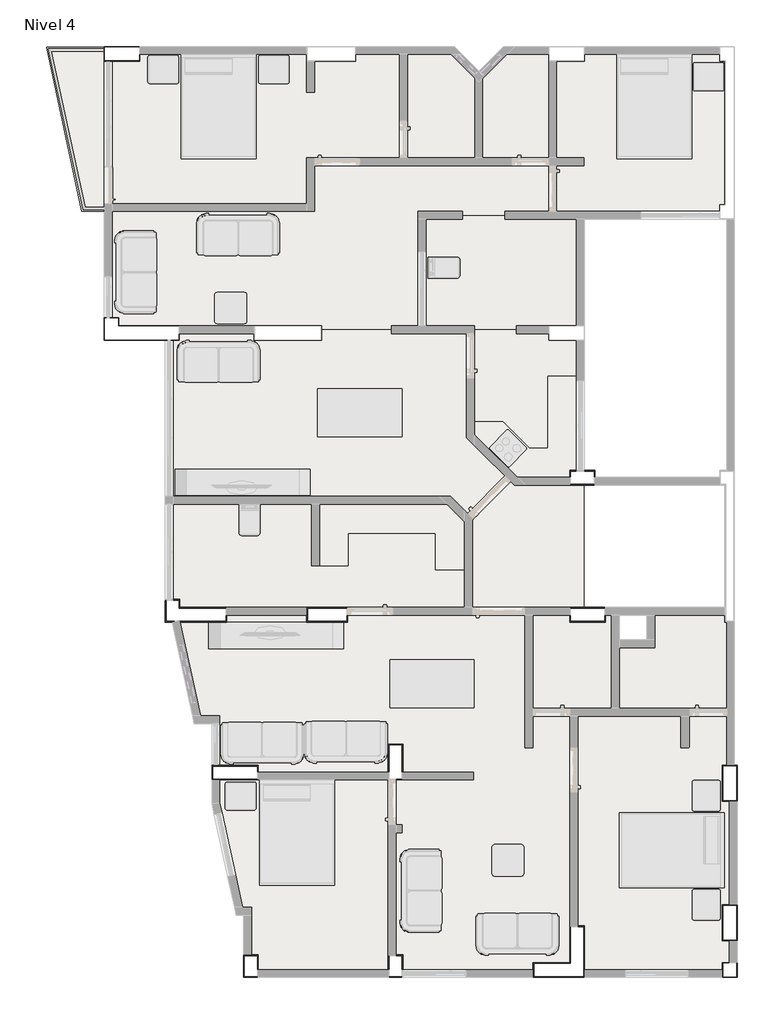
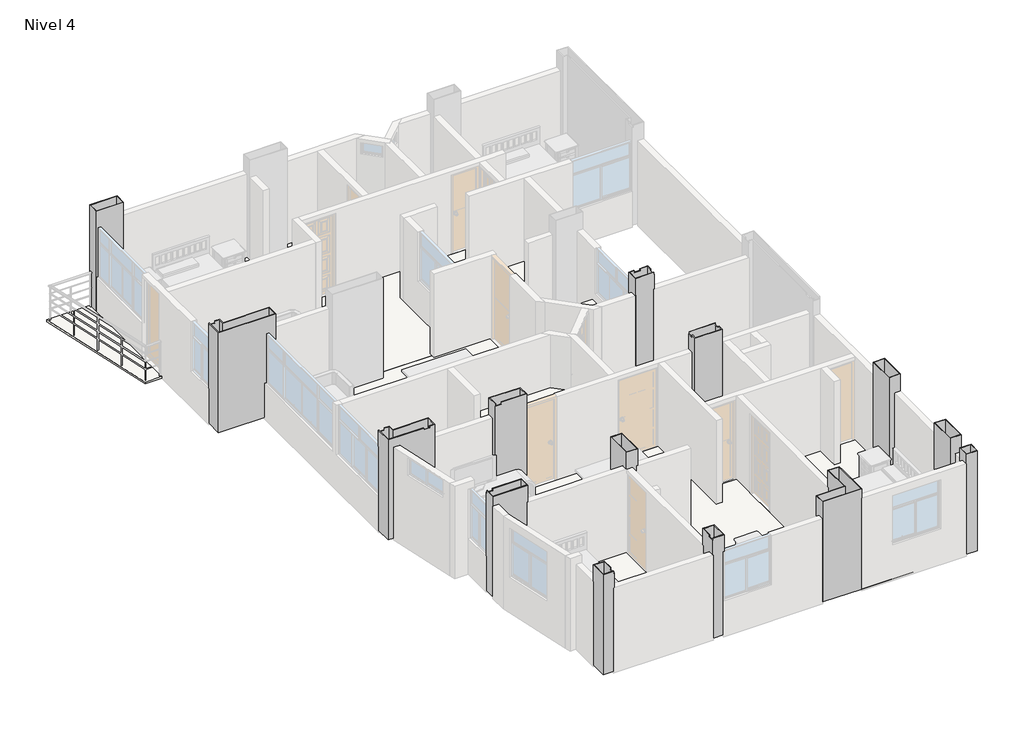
# One storey, part 3 of 4: 17 slabs, 14 columns.
"""IFC4 building model written with IfcOpenShell, lengths in millimetres."""

import ifcopenshell
import ifcopenshell.guid

model = None  # the IFC model being written
_history = None  # IfcOwnerHistory: only IFC2X3 demands one
_inside = {}  # id of a spatial element -> (the spatial element, [elements in it])
_under = {}  # id of a project, library or spatial element -> (it, [spatial elements below it])
_declared = {}  # id of a project -> (the project, [libraries it declares])
_typed = {}  # id of a type object -> (the type object, [elements of that type])
_made_of = {}  # id of a material, layer set ... -> (it, [elements and type objects made of it])


def new_model(schema):
    """Start an empty IFC model of exactly this schema.

    Asked for "IFC4X3", IfcOpenShell would pick the latest addendum, in which some entities
    have other attributes; the version numbers below select the first issue.
    IFC2X3 requires an IfcOwnerHistory on every rooted entity: one is made here for all.
    """
    global model, _history
    if schema == "IFC4X3":
        model = ifcopenshell.file(schema_version=(4, 3, 0, 0))
    else:
        model = ifcopenshell.file(schema=schema)
    _inside.clear()
    _under.clear()
    _declared.clear()
    _typed.clear()
    _made_of.clear()
    _history = None
    if model.schema == "IFC2X3":
        org = make("IfcOrganization", Name="unknown")
        user = make(
            "IfcPersonAndOrganization",
            ThePerson=make("IfcPerson", FamilyName="unknown"),
            TheOrganization=org,
        )
        app = make(
            "IfcApplication",
            ApplicationDeveloper=org,
            Version="unknown",
            ApplicationFullName="unknown",
            ApplicationIdentifier="unknown",
        )
        _history = make(
            "IfcOwnerHistory",
            OwningUser=user,
            OwningApplication=app,
            ChangeAction="ADDED",
            CreationDate=0,
        )
    return model


def make(cls, **values):
    """One entity of the class cls with the attributes given. An attribute that is None is left unset."""
    return model.create_entity(
        cls, **{name: value for name, value in values.items() if value is not None}
    )


def rooted(cls, **values):
    """An entity with a GlobalId (a new one), such as an element, a storey or a relation."""
    return make(cls, GlobalId=ifcopenshell.guid.new(), OwnerHistory=_history, **values)


def si_unit(unit_type, name, prefix=None):
    """IfcSIUnit, for example si_unit("LENGTHUNIT", "METRE", prefix="MILLI")."""
    return make("IfcSIUnit", UnitType=unit_type, Prefix=prefix, Name=name)


def assignment(units):
    """IfcUnitAssignment: the units of a project."""
    return None if units is None else make("IfcUnitAssignment", Units=units)


def point(xyz):
    """IfcCartesianPoint."""
    return None if xyz is None else make("IfcCartesianPoint", Coordinates=xyz)


def direction(xyz):
    """IfcDirection."""
    return None if xyz is None else make("IfcDirection", DirectionRatios=xyz)


def frame(location, z_axis=None, x_axis=None):
    """IfcAxis2Placement3D, a coordinate frame: its origin and axes. An axis left out is left unset."""
    return make(
        "IfcAxis2Placement3D",
        Location=point(location),
        Axis=direction(z_axis),
        RefDirection=direction(x_axis),
    )


def origin():
    """The frame at (0, 0, 0) with its axes left unset."""
    return frame((0.0, 0.0, 0.0))


def place(relative_to, where):
    """IfcLocalPlacement: puts the frame where relative to a parent placement (None: the world)."""
    return make(
        "IfcLocalPlacement", PlacementRelTo=relative_to, RelativePlacement=where
    )


def context(
    kind, dimensions, precision=None, world=None, true_north=None, identifier=None
):
    """IfcGeometricRepresentationContext, for example the 3D "Model" context."""
    return make(
        "IfcGeometricRepresentationContext",
        ContextIdentifier=identifier,
        ContextType=kind,
        CoordinateSpaceDimension=dimensions,
        Precision=precision,
        WorldCoordinateSystem=world,
        TrueNorth=true_north,
    )


def project(units=None, contexts=None):
    """IfcProject with its units and contexts."""
    return rooted(
        "IfcProject",
        Name="project",
        RepresentationContexts=contexts,
        UnitsInContext=assignment(units),
    )


def spatial(cls, under=None, at=None, **own):
    """A site, building, storey or space (cls), placed at a placement, below another one or the project."""
    s = rooted(cls, ObjectPlacement=at, **own)
    if under is not None:
        _under.setdefault(under.id(), (under, []))[1].append(s)
    return s


def polyline(points):
    """IfcPolyline through the points."""
    return make("IfcPolyline", Points=[point(p) for p in points])


def outline(outer, holes=None, kind="AREA"):
    """IfcArbitraryClosedProfileDef: a profile drawn as a closed curve; with holes, ...WithVoids."""
    if holes is None:
        return make("IfcArbitraryClosedProfileDef", ProfileType=kind, OuterCurve=outer)
    return make(
        "IfcArbitraryProfileDefWithVoids",
        ProfileType=kind,
        OuterCurve=outer,
        InnerCurves=holes,
    )


def extrude(swept, where, along, depth):
    """IfcExtrudedAreaSolid: the profile swept, set in the frame where, extruded along a direction by depth."""
    return make(
        "IfcExtrudedAreaSolid",
        SweptArea=swept,
        Position=where,
        ExtrudedDirection=direction(along),
        Depth=depth,
    )


def faces_of(points, faces, orient=None, outer=None):
    """IfcFace entities. A face is a list of loops; a loop is a list of indices into points, from 0.

    orient and outer hold one flag for each loop. By default every Orientation is true, the
    first loop of a face is its IfcFaceOuterBound and the others are IfcFaceBound.
    """
    made = []
    for i, loops in enumerate(faces):
        bounds = []
        for j, loop in enumerate(loops):
            is_outer = j == 0 if outer is None else outer[i][j]
            bounds.append(
                make(
                    "IfcFaceOuterBound" if is_outer else "IfcFaceBound",
                    Bound=make("IfcPolyLoop", Polygon=[points[k] for k in loop]),
                    Orientation=True if orient is None else orient[i][j],
                )
            )
        made.append(make("IfcFace", Bounds=bounds))
    return made


def faceted_brep(points, faces, orient=None, outer=None, voids=None):
    """IfcFacetedBrep: a solid bounded by flat faces; with voids (closed shells), ...WithVoids."""
    shared = [point(p) for p in points]
    hull = make("IfcClosedShell", CfsFaces=faces_of(shared, faces, orient, outer))
    if voids is None:
        return make("IfcFacetedBrep", Outer=hull)
    return make(
        "IfcFacetedBrepWithVoids",
        Outer=hull,
        Voids=[
            make(cls, CfsFaces=faces_of(shared, fs, o, b)) for cls, fs, o, b in voids
        ],
    )


def shape(context_of_items, identifier, shape_type, items):
    """IfcShapeRepresentation: the items that make up one representation, for example the "Body"."""
    return make(
        "IfcShapeRepresentation",
        ContextOfItems=context_of_items,
        RepresentationIdentifier=identifier,
        RepresentationType=shape_type,
        Items=items,
    )


def made_of(thing, what):
    """Note that an element or type object is made of a material, layer set ...; save() writes the relation."""
    if what is not None:
        _made_of.setdefault(what.id(), (what, []))[1].append(thing)
    return thing


def element(
    cls,
    number,
    at=None,
    inside=None,
    cuts=None,
    type_object=None,
    material=None,
    context=None,
    identifier="Body",
    shape_type=None,
    held_by="IfcProductDefinitionShape",
    body=None,
    shapes=None,
    **own,
):
    """One element of the class cls, such as IfcWall. Its Tag is "e" and its number.

    at: its placement. inside: the storey or other place that contains it. cuts: it is an
    opening in that element (IfcRelVoidsElement). A single representation is given by context,
    identifier, shape_type and body (its items); several are given by shapes. held_by: the class
    of the entity that holds the representations. save() writes the other relations.
    """
    e = rooted(cls, Tag="e%d" % number, ObjectPlacement=at, **own)
    if body is not None:
        shapes = [shape(context, identifier, shape_type, body)]
    if shapes is not None:
        e.Representation = make(held_by, Representations=shapes)
    if inside is not None:
        _inside.setdefault(inside.id(), (inside, []))[1].append(e)
    if cuts is not None:
        rooted(
            "IfcRelVoidsElement", RelatingBuildingElement=cuts, RelatedOpeningElement=e
        )
    if type_object is not None:
        _typed.setdefault(type_object.id(), (type_object, []))[1].append(e)
    return made_of(e, material)


def aggregate(whole, parts):
    """IfcRelAggregates: a whole, such as a stair, and the parts it consists of."""
    return rooted("IfcRelAggregates", RelatingObject=whole, RelatedObjects=parts)


def save(model, path):
    """Write the relations noted so far, then the file.

    IfcRelAggregates (storeys below a building ...), IfcRelContainedInSpatialStructure (elements
    in a storey), IfcRelDefinesByType, IfcRelAssociatesMaterial and IfcRelDeclares: one each for
    every whole, place, type object, material and project.
    """
    for whole, parts in _under.values():
        aggregate(whole, parts)
    for where, things in _inside.values():
        rooted(
            "IfcRelContainedInSpatialStructure",
            RelatedElements=things,
            RelatingStructure=where,
        )
    for kind, things in _typed.values():
        rooted("IfcRelDefinesByType", RelatedObjects=things, RelatingType=kind)
    for what, things in _made_of.values():
        rooted("IfcRelAssociatesMaterial", RelatedObjects=things, RelatingMaterial=what)
    for by, libraries in _declared.values():
        rooted("IfcRelDeclares", RelatingContext=by, RelatedDefinitions=libraries)
    model.write(path)


model = new_model("IFC4")

# Units and contexts
model_context = context("Model", 3, world=origin())
ifc_project = project(units=[si_unit("LENGTHUNIT", "METRE", prefix="MILLI")], contexts=[model_context])

# Site, building, storey
site = spatial("IfcSite", under=ifc_project)
building = spatial("IfcBuilding", under=site)
storey = spatial("IfcBuildingStorey", under=building, Name="Nivel 4", Elevation=8100.0)

# Columns
placement = place(None, origin())
element("IfcColumn", 1, ObjectType="Columna L Arquitectonica : ACO_L 40x114x25 cm", at=placement, inside=storey, context=model_context, shape_type="Brep", body=[
    faceted_brep([(-350.0, 7000.0, 8100.0), (-1240.0, 7000.0, 8100.0), (-1240.0, 7150.0, 8100.0), (-1355.0, 7150.0, 8100.0), (-1355.0, 7165.0, 8100.0), (-1225.0, 7165.0, 8100.0), (-1225.0, 7015.0, 8100.0), (-350.0, 7015.0, 8100.0), (-1240.0, 7150.0, 10750.0), (-1355.0, 7150.0, 10750.0), (-1355.0, 7150.0, 10700.0), (-1490.0, 7150.0, 10700.0), (-1490.0, 7150.0, 10300.0), (-1355.0, 7150.0, 10300.0), (-1490.0, 6750.0, 8100.0), (-1490.0, 7150.0, 8100.0), (-1490.0, 7150.0, 10750.0), (-1490.0, 6750.0, 10750.0), (-615.0, 6750.0, 10750.0), (-615.0, 6750.0, 10700.0), (-465.0, 6750.0, 10700.0), (-465.0, 6750.0, 10750.0), (-350.0, 6750.0, 10750.0), (-350.0, 6750.0, 8100.0), (-1220.1386409, 6750.0, 8100.0), (-1220.1386409, 6750.0, 10500.0), (-1331.7746495, 6750.0, 10500.0), (-1331.7746495, 6750.0, 8100.0), (-350.0, 7000.0, 10750.0), (-350.0, 7000.0, 10300.0), (-350.0, 6865.0, 10300.0), (-350.0, 6865.0, 8100.0), (-1240.0, 7000.0, 10750.0), (-1225.0, 7165.0, 10750.0), (-1225.0, 7015.0, 10750.0), (-335.0, 7015.0, 10750.0), (-335.0, 7015.0, 10300.0), (-350.0, 7015.0, 10300.0), (-335.0, 6735.0, 10750.0), (-335.0, 6735.0, 8100.0), (-335.0, 6865.0, 8100.0), (-335.0, 6865.0, 10300.0), (-465.0, 6735.0, 10750.0), (-465.0, 6735.0, 10700.0), (-615.0, 6735.0, 10700.0), (-615.0, 6735.0, 10750.0), (-1505.0, 6735.0, 10750.0), (-1505.0, 6735.0, 8100.0), (-1370.3630896, 6735.0, 8100.0), (-1370.3630896, 6735.0, 10500.0), (-1216.8940234, 6735.0, 10500.0), (-1216.8940234, 6735.0, 8100.0), (-1505.0, 7150.0, 10750.0), (-1505.0, 7150.0, 10700.0), (-1505.0, 7165.0, 10700.0), (-1505.0, 7165.0, 10300.0), (-1505.0, 7150.0, 10300.0), (-1505.0, 7150.0, 8100.0), (-1355.0, 7165.0, 9000.0), (-1355.0, 7165.0, 10300.0), (-1355.0, 7165.0, 10700.0), (-1355.0, 7165.0, 10750.0), (-1371.7378651, 6741.3556434, 8100.0), (-1371.7378651, 6741.3556434, 10500.0)], [[[0, 1, 2, 3, 4, 5, 6, 7]], [[2, 8, 9, 10, 11, 12, 13, 3]], [[14, 15, 12, 11, 16, 17]], [[14, 17, 18, 19, 20, 21, 22, 23, 24, 25, 26, 27]], [[23, 22, 28, 29, 30, 31]], [[1, 0, 29, 28, 32]], [[2, 1, 32, 8]], [[6, 5, 33, 34]], [[6, 34, 35, 36, 37, 7]], [[35, 38, 39, 40, 41, 36]], [[39, 38, 42, 43, 44, 45, 46, 47, 48, 49, 50, 51]], [[47, 46, 52, 53, 54, 55, 56, 57]], [[33, 5, 4, 58, 59, 55, 54, 60, 61]], [[17, 16, 52, 46, 45, 18]], [[4, 3, 13, 59, 58]], [[12, 56, 55, 59, 13]], [[56, 12, 15, 57]], [[30, 41, 40, 31]], [[37, 29, 0, 7]], [[29, 37, 36, 41, 30]], [[23, 31, 40, 39, 51, 24]], [[50, 25, 24, 51]], [[62, 63, 49, 48]], [[63, 62, 27, 26]], [[25, 50, 49, 63, 26]], [[15, 14, 27, 62, 48, 47, 57]], [[20, 43, 42, 21]], [[44, 19, 18, 45]], [[43, 20, 19, 44]], [[60, 10, 9, 61]], [[53, 11, 10, 60, 54]], [[11, 53, 52, 16]], [[28, 22, 21, 42, 38, 35, 34, 33, 61, 9, 8, 32]]]),
])
element("IfcColumn", 2, ObjectType="Columna L Arquitectonica : ACO_L 40x140x25 cm", at=placement, inside=storey, context=model_context, shape_type="Brep", body=[
    faceted_brep([(-2385.0, 12515.0, 8100.0), (-2385.0, 12365.0, 8100.0), (-1235.0, 12365.0, 8100.0), (-1235.0, 12085.0, 8100.0), (-2665.0, 12085.0, 8100.0), (-2665.0, 12515.0, 8100.0), (-2400.0, 12500.0, 8100.0), (-2650.0, 12500.0, 8100.0), (-2650.0, 12100.0, 8100.0), (-1250.0, 12100.0, 8100.0), (-1250.0, 12350.0, 8100.0), (-2400.0, 12350.0, 8100.0), (-2400.0, 12500.0, 10750.0), (-2515.0, 12500.0, 10750.0), (-2515.0, 12500.0, 10700.0), (-2650.0, 12500.0, 10700.0), (-2650.0, 12500.0, 10750.0), (-2650.0, 12100.0, 10750.0), (-1250.0, 12100.0, 10750.0), (-1250.0, 12350.0, 10750.0), (-2400.0, 12350.0, 10750.0), (-2385.0, 12515.0, 10750.0), (-2385.0, 12365.0, 10750.0), (-1235.0, 12365.0, 10750.0), (-1235.0, 12365.0, 10700.0), (-1235.0, 12365.0, 10300.0), (-1235.0, 12085.0, 10750.0), (-2665.0, 12085.0, 10750.0), (-2665.0, 12500.0, 10750.0), (-2665.0, 12500.0, 10700.0), (-2665.0, 12515.0, 10700.0), (-2665.0, 12515.0, 9000.0), (-2515.0, 12515.0, 10700.0), (-2515.0, 12515.0, 10750.0)], [[[0, 1, 2, 3, 4, 5], [6, 7, 8, 9, 10, 11]], [[7, 6, 12, 13, 14, 15]], [[8, 7, 15, 16, 17]], [[9, 8, 17, 18]], [[10, 9, 18, 19]], [[11, 10, 19, 20]], [[6, 11, 20, 12]], [[1, 0, 21, 22]], [[2, 1, 22, 23, 24, 25]], [[3, 2, 25, 24, 23, 26]], [[4, 3, 26, 27]], [[5, 4, 27, 28, 29, 30, 31]], [[0, 5, 31, 30, 32, 33, 21]], [[17, 16, 28, 27, 26, 23, 22, 21, 33, 13, 12, 20, 19, 18]], [[32, 14, 13, 33]], [[29, 15, 14, 32, 30]], [[15, 29, 28, 16]]]),
])
element("IfcColumn", 3, ObjectType="Columna L Arquitectonica : ACO_L 95x95x25 cm", at=placement, inside=storey, context=model_context, shape_type="Brep", body=[
    faceted_brep([(5500.0, 250.0, 8100.0), (5500.0, 0.0, 8100.0), (6450.0, 0.0, 8100.0), (6450.0, 950.0, 8100.0), (6335.0, 950.0, 8100.0), (6335.0, 965.0, 8100.0), (6465.0, 965.0, 8100.0), (6465.0, -15.0, 8100.0), (5485.0, -15.0, 8100.0), (5485.0, 265.0, 8100.0), (6185.0, 265.0, 8100.0), (6185.0, 950.0, 8100.0), (6200.0, 950.0, 8100.0), (6200.0, 250.0, 8100.0), (5500.0, 250.0, 10750.0), (5500.0, 0.0, 10750.0), (6450.0, 0.0, 10750.0), (6450.0, 950.0, 10750.0), (6200.0, 950.0, 10750.0), (6200.0, 950.0, 10300.0), (6335.0, 950.0, 10300.0), (6200.0, 250.0, 10750.0), (5485.0, 265.0, 10750.0), (6185.0, 265.0, 10750.0), (6185.0, 965.0, 10750.0), (6185.0, 965.0, 10300.0), (6185.0, 950.0, 10300.0), (6465.0, 965.0, 10750.0), (6465.0, 965.0, 10700.0), (6335.0, 965.0, 10300.0), (6465.0, 815.0, 10750.0), (6465.0, -15.0, 10750.0), (6465.0, -15.0, 10500.0), (5485.0, -15.0, 10750.0), (5485.0, -15.0, 10300.0)], [[[0, 1, 2, 3, 4, 5, 6, 7, 8, 9, 10, 11, 12, 13]], [[1, 0, 14, 15]], [[2, 1, 15, 16]], [[3, 2, 16, 17]], [[3, 17, 18, 19, 20, 4]], [[13, 12, 19, 18, 21]], [[0, 13, 21, 14]], [[10, 9, 22, 23]], [[10, 23, 24, 25, 26, 11]], [[24, 27, 28, 6, 5, 29, 25]], [[7, 6, 28, 27, 30, 31, 32]], [[8, 7, 32, 31, 33, 34]], [[9, 8, 34, 33, 22]], [[23, 22, 33, 31, 30, 27, 24], [15, 14, 21, 18, 17, 16]], [[20, 29, 5, 4]], [[19, 26, 25, 29, 20]], [[26, 19, 12, 11]]]),
])
element("IfcColumn", 4, ObjectType="Columna Rectangular Arquitectonica : ACO_Rectangular 25x25 cm", at=placement, inside=storey, context=model_context, shape_type="Brep", body=[
    faceted_brep([(9085.0, -15.0, 8100.0), (9085.0, 265.0, 8100.0), (9365.0, 265.0, 8100.0), (9365.0, -15.0, 8100.0), (9100.0, 0.0, 8100.0), (9350.0, 0.0, 8100.0), (9350.0, 250.0, 8100.0), (9100.0, 250.0, 8100.0), (9100.0, 0.0, 10750.0), (9350.0, 0.0, 10750.0), (9350.0, 250.0, 10750.0), (9100.0, 250.0, 10750.0), (9085.0, -15.0, 10750.0), (9085.0, 265.0, 10750.0), (9085.0, -15.0, 10500.0), (9365.0, 265.0, 10750.0), (9365.0, 265.0, 10700.0), (9365.0, 265.0, 10300.0), (9365.0, -15.0, 10750.0)], [[[0, 1, 2, 3], [4, 5, 6, 7]], [[8, 9, 5, 4]], [[9, 10, 6, 5]], [[10, 11, 7, 6]], [[11, 8, 4, 7]], [[12, 13, 1, 0, 14]], [[13, 15, 16, 17, 2, 1]], [[15, 18, 3, 2, 17, 16]], [[18, 12, 14, 0, 3]], [[12, 18, 15, 13], [8, 11, 10, 9]]]),
])
element("IfcColumn", 5, ObjectType="Columna Rectangular Arquitectonica : ACO_Rectangular 25x40 cm", at=placement, inside=storey, context=model_context, shape_type="Brep", body=[
    faceted_brep([(2735.0, 400.0, 8100.0), (2750.0, 400.0, 8100.0), (2750.0, 135.0, 8100.0), (2735.0, 135.0, 8100.0), (3000.0, 0.0, 8100.0), (2750.0, 0.0, 8100.0), (2750.0, 0.0, 10300.0), (2750.0, 0.0, 10700.0), (2750.0, 0.0, 10750.0), (3000.0, 0.0, 10750.0), (3000.0, 0.0, 10300.0), (3000.0, 400.0, 10750.0), (3000.0, 400.0, 8100.0), (3000.0, 135.0, 8100.0), (3000.0, 135.0, 10300.0), (2750.0, 400.0, 10750.0), (2750.0, 400.0, 10300.0), (2885.0, 400.0, 10300.0), (2885.0, 400.0, 8100.0), (2750.0, 135.0, 10750.0), (2750.0, 135.0, 10700.0), (2750.0, 135.0, 10300.0), (2735.0, 415.0, 10750.0), (2735.0, 415.0, 10300.0), (2735.0, 400.0, 10300.0), (2735.0, 135.0, 10300.0), (2735.0, -15.0, 10300.0), (2735.0, -15.0, 10700.0), (2735.0, 135.0, 10700.0), (2735.0, 135.0, 10750.0), (3015.0, 415.0, 10750.0), (3015.0, 415.0, 8100.0), (2885.0, 415.0, 8100.0), (2885.0, 415.0, 10300.0), (3015.0, -15.0, 10750.0), (3015.0, -15.0, 10300.0), (3015.0, 135.0, 10300.0), (3015.0, 135.0, 9000.0), (3015.0, 135.0, 8100.0), (2750.0, -15.0, 10300.0), (2750.0, -15.0, 8100.0), (3000.0, -15.0, 8100.0), (3000.0, -15.0, 10300.0), (2750.0, -15.0, 10750.0), (2750.0, -15.0, 10700.0)], [[[0, 1, 2, 3]], [[4, 5, 6, 7, 8, 9, 10]], [[9, 11, 12, 13, 14, 10]], [[12, 11, 15, 16, 17, 18]], [[16, 15, 19, 20, 7, 6, 21, 2, 1]], [[22, 23, 24, 0, 3, 25, 26, 27, 28, 29]], [[22, 30, 31, 32, 33, 23]], [[31, 30, 34, 35, 36, 37, 38]], [[26, 39, 40, 41, 42, 35, 34, 43, 44, 27]], [[9, 8, 43, 34, 30, 22, 29, 19, 15, 11]], [[17, 33, 32, 18]], [[16, 24, 23, 33, 17]], [[24, 16, 1, 0]], [[21, 25, 3, 2]], [[6, 39, 26, 25, 21]], [[39, 6, 5, 40]], [[12, 18, 32, 31, 38, 13]], [[14, 13, 38, 37, 36]], [[10, 42, 41, 4]], [[42, 10, 14, 36, 35]], [[5, 4, 41, 40]], [[28, 20, 19, 29]], [[44, 7, 20, 28, 27]], [[7, 44, 43, 8]]]),
])
element("IfcColumn", 6, ObjectType="Columna Rectangular Arquitectonica : ACO_Rectangular 25x40 cm", at=placement, inside=storey, context=model_context, shape_type="Brep", body=[
    faceted_brep([(0.0, 0.0, 8100.0), (250.0, 0.0, 8100.0), (250.0, -15.0, 8100.0), (-15.0, -15.0, 8100.0), (-15.0, 415.0, 8100.0), (265.0, 415.0, 8100.0), (265.0, 135.0, 8100.0), (250.0, 135.0, 8100.0), (250.0, 400.0, 8100.0), (0.0, 400.0, 8100.0), (0.0, 0.0, 10750.0), (250.0, 0.0, 10750.0), (250.0, 0.0, 10700.0), (250.0, 0.0, 10300.0), (250.0, 400.0, 10750.0), (250.0, 135.0, 10300.0), (250.0, 135.0, 10700.0), (250.0, 135.0, 10750.0), (0.0, 400.0, 10750.0), (-15.0, -15.0, 10750.0), (-15.0, 415.0, 10750.0), (-15.0, 415.0, 10700.0), (-15.0, 415.0, 10300.0), (265.0, 415.0, 10750.0), (265.0, 135.0, 10750.0), (265.0, 135.0, 10700.0), (265.0, -15.0, 10700.0), (265.0, -15.0, 10300.0), (265.0, 135.0, 10300.0), (250.0, -15.0, 10300.0), (250.0, -15.0, 10700.0), (250.0, -15.0, 10750.0)], [[[0, 1, 2, 3, 4, 5, 6, 7, 8, 9]], [[1, 0, 10, 11, 12, 13]], [[14, 8, 7, 15, 13, 12, 16, 17]], [[9, 8, 14, 18]], [[0, 9, 18, 10]], [[4, 3, 19, 20, 21, 22]], [[5, 4, 22, 21, 20, 23]], [[5, 23, 24, 25, 26, 27, 28, 6]], [[19, 3, 2, 29, 27, 26, 30, 31]], [[11, 10, 18, 14, 17, 24, 23, 20, 19, 31]], [[28, 15, 7, 6]], [[13, 29, 2, 1]], [[29, 13, 15, 28, 27]], [[16, 25, 24, 17]], [[12, 30, 26, 25, 16]], [[30, 12, 11, 31]]]),
])
element("IfcColumn", 7, ObjectType="Columna Rectangular Arquitectonica : ACO_Rectangular 25x45 cm", at=placement, inside=storey, context=model_context, shape_type="Brep", body=[
    faceted_brep([(6315.0, 9600.0, 8100.0), (6200.0, 9600.0, 8100.0), (6200.0, 9485.0, 8100.0), (6185.0, 9485.0, 8100.0), (6185.0, 9615.0, 8100.0), (6315.0, 9615.0, 8100.0), (6200.0, 9600.0, 10750.0), (6200.0, 9350.0, 10750.0), (6200.0, 9350.0, 10300.0), (6200.0, 9485.0, 10300.0), (6650.0, 9350.0, 8100.0), (6200.0, 9350.0, 8100.0), (6650.0, 9350.0, 10750.0), (6650.0, 9350.0, 10700.0), (6650.0, 9350.0, 10300.0), (6650.0, 9600.0, 10750.0), (6650.0, 9600.0, 8100.0), (6650.0, 9485.0, 8100.0), (6650.0, 9485.0, 10300.0), (6650.0, 9485.0, 10700.0), (6650.0, 9485.0, 10750.0), (6315.0, 9600.0, 10300.0), (6465.0, 9600.0, 10300.0), (6465.0, 9600.0, 8100.0), (6465.0, 9600.0, 10750.0), (6465.0, 9600.0, 10700.0), (6315.0, 9600.0, 10700.0), (6315.0, 9600.0, 10750.0), (6665.0, 9615.0, 10750.0), (6665.0, 9615.0, 8100.0), (6465.0, 9615.0, 8100.0), (6465.0, 9615.0, 9100.0), (6465.0, 9615.0, 10300.0), (6315.0, 9615.0, 10300.0), (6315.0, 9615.0, 9100.0), (6185.0, 9615.0, 10750.0), (6315.0, 9615.0, 10750.0), (6315.0, 9615.0, 10700.0), (6465.0, 9615.0, 10700.0), (6465.0, 9615.0, 10750.0), (6665.0, 9485.0, 10750.0), (6665.0, 9485.0, 10700.0), (6665.0, 9335.0, 10700.0), (6665.0, 9335.0, 10300.0), (6665.0, 9485.0, 10300.0), (6665.0, 9485.0, 8100.0), (6185.0, 9335.0, 10750.0), (6185.0, 9335.0, 10300.0), (6200.0, 9335.0, 10300.0), (6200.0, 9335.0, 8100.0), (6650.0, 9335.0, 8100.0), (6650.0, 9335.0, 10300.0), (6650.0, 9335.0, 10700.0), (6650.0, 9335.0, 10750.0), (6185.0, 9485.0, 10300.0)], [[[0, 1, 2, 3, 4, 5]], [[6, 7, 8, 9, 2, 1]], [[10, 11, 8, 7, 12, 13, 14]], [[15, 16, 17, 18, 14, 13, 19, 20]], [[6, 1, 0, 21, 22, 23, 16, 15, 24, 25, 26, 27]], [[28, 29, 30, 31, 32, 33, 34, 5, 4, 35, 36, 37, 38, 39]], [[29, 28, 40, 41, 42, 43, 44, 45]], [[46, 47, 48, 49, 50, 51, 43, 42, 52, 53]], [[35, 4, 3, 54, 47, 46]], [[7, 6, 27, 36, 35, 46, 53, 12]], [[30, 23, 22, 32, 31]], [[0, 5, 34, 33, 21]], [[22, 21, 33, 32]], [[9, 54, 3, 2]], [[8, 48, 47, 54, 9]], [[48, 8, 11, 49]], [[16, 23, 30, 29, 45, 17]], [[44, 18, 17, 45]], [[51, 14, 18, 44, 43]], [[14, 51, 50, 10]], [[11, 10, 50, 49]], [[26, 37, 36, 27]], [[38, 25, 24, 39]], [[37, 26, 25, 38]], [[19, 41, 40, 20]], [[13, 52, 42, 41, 19]], [[52, 13, 12, 53]], [[24, 15, 20, 40, 28, 39]]]),
])
element("IfcColumn", 8, ObjectType="Columna Rectangular Arquitectonica : ACO_Rectangular 25x65 cm", at=placement, inside=storey, context=model_context, shape_type="Brep", body=[
    faceted_brep([(-2665.0, 17665.0, 8100.0), (-1985.0, 17665.0, 8100.0), (-1985.0, 17385.0, 8100.0), (-2665.0, 17385.0, 8100.0), (-2650.0, 17650.0, 8100.0), (-2650.0, 17400.0, 8100.0), (-2000.0, 17400.0, 8100.0), (-2000.0, 17650.0, 8100.0), (-2650.0, 17650.0, 10750.0), (-2650.0, 17400.0, 10750.0), (-2000.0, 17400.0, 10750.0), (-2000.0, 17650.0, 10750.0), (-2665.0, 17665.0, 10750.0), (-1985.0, 17665.0, 10750.0), (-1985.0, 17665.0, 10700.0), (-1985.0, 17665.0, 10300.0), (-1985.0, 17385.0, 10750.0), (-2665.0, 17385.0, 10750.0), (-2665.0, 17385.0, 9000.0)], [[[0, 1, 2, 3], [4, 5, 6, 7]], [[8, 9, 5, 4]], [[9, 10, 6, 5]], [[10, 11, 7, 6]], [[11, 8, 4, 7]], [[12, 13, 14, 15, 1, 0]], [[13, 16, 2, 1, 15, 14]], [[16, 17, 18, 3, 2]], [[17, 12, 0, 3, 18]], [[12, 17, 16, 13], [8, 11, 10, 9]]]),
])
element("IfcColumn", 9, ObjectType="Columna Rectangular Arquitectonica : ACO_Rectangular 25x65 cm", at=placement, inside=storey, context=model_context, shape_type="Brep", body=[
    faceted_brep([(6850.0, 7000.0, 8100.0), (6200.0, 7000.0, 8100.0), (6200.0, 7015.0, 8100.0), (6850.0, 7015.0, 8100.0), (6200.0, 6750.0, 10750.0), (6200.0, 6750.0, 8100.0), (6200.0, 6865.0, 8100.0), (6200.0, 6865.0, 10300.0), (6200.0, 7000.0, 10300.0), (6200.0, 7000.0, 10700.0), (6200.0, 6865.0, 10700.0), (6200.0, 6865.0, 10750.0), (6850.0, 6750.0, 8100.0), (6850.0, 6750.0, 10750.0), (6850.0, 6865.0, 10750.0), (6850.0, 6865.0, 10700.0), (6850.0, 7000.0, 10700.0), (6850.0, 7000.0, 10300.0), (6850.0, 6865.0, 10300.0), (6850.0, 6865.0, 8100.0), (6850.0, 7000.0, 10750.0), (6200.0, 7000.0, 10750.0), (6850.0, 7015.0, 10300.0), (6200.0, 7015.0, 10300.0), (6185.0, 7015.0, 10300.0), (6185.0, 7015.0, 10700.0), (6200.0, 7015.0, 10700.0), (6200.0, 7015.0, 10750.0), (6850.0, 7015.0, 10750.0), (6850.0, 7015.0, 10700.0), (6865.0, 7015.0, 10700.0), (6865.0, 7015.0, 10300.0), (6865.0, 6735.0, 10750.0), (6865.0, 6735.0, 8100.0), (6865.0, 6865.0, 8100.0), (6865.0, 6865.0, 10300.0), (6865.0, 6865.0, 10700.0), (6865.0, 6865.0, 10750.0), (6185.0, 6735.0, 8100.0), (6185.0, 6735.0, 10750.0), (6185.0, 6735.0, 10700.0), (6185.0, 6865.0, 10750.0), (6185.0, 6865.0, 10700.0), (6185.0, 6865.0, 10300.0), (6185.0, 6865.0, 8100.0)], [[[0, 1, 2, 3]], [[4, 5, 6, 7, 8, 9, 10, 11]], [[12, 5, 4, 13]], [[12, 13, 14, 15, 16, 17, 18, 19]], [[1, 0, 17, 16, 20, 21, 9, 8]], [[22, 3, 2, 23, 24, 25, 26, 27, 28, 29, 30, 31]], [[32, 33, 34, 35, 31, 30, 36, 37]], [[38, 33, 32, 39, 40]], [[38, 40, 39, 41, 42, 25, 24, 43, 44]], [[13, 4, 11, 41, 39, 32, 37, 14]], [[18, 35, 34, 19]], [[22, 17, 0, 3]], [[17, 22, 31, 35, 18]], [[6, 44, 43, 7]], [[8, 23, 2, 1]], [[23, 8, 7, 43, 24]], [[5, 12, 19, 34, 33, 38, 44, 6]], [[10, 42, 41, 11]], [[42, 10, 9, 26, 25]], [[27, 26, 9, 21]], [[36, 15, 14, 37]], [[29, 16, 15, 36, 30]], [[16, 29, 28, 20]], [[21, 20, 28, 27]]]),
])
element("IfcColumn", 10, ObjectType="Columna Rectangular Arquitectonica : ACO_Rectangular 25x65 cm", at=placement, inside=storey, context=model_context, shape_type="Brep", body=[
    faceted_brep([(3000.0, 4400.0, 8100.0), (2750.0, 4400.0, 8100.0), (2750.0, 3885.0, 8100.0), (2735.0, 3885.0, 8100.0), (2735.0, 4415.0, 8100.0), (3015.0, 4415.0, 8100.0), (3015.0, 3885.0, 8100.0), (3000.0, 3885.0, 8100.0), (2750.0, 3750.0, 10750.0), (3000.0, 3750.0, 10750.0), (3000.0, 3750.0, 10300.0), (3000.0, 3750.0, 8100.0), (2885.0, 3750.0, 8100.0), (2885.0, 3750.0, 10300.0), (2750.0, 3750.0, 10300.0), (3000.0, 4400.0, 10750.0), (3000.0, 3885.0, 10300.0), (2750.0, 4400.0, 10750.0), (2750.0, 3885.0, 10300.0), (2735.0, 3735.0, 10750.0), (2735.0, 4415.0, 10750.0), (2735.0, 4415.0, 10700.0), (2735.0, 3885.0, 10300.0), (2735.0, 3750.0, 10300.0), (2735.0, 3735.0, 10300.0), (2735.0, 3735.0, 10700.0), (3015.0, 4415.0, 10750.0), (3015.0, 3735.0, 10750.0), (3015.0, 3735.0, 10300.0), (3015.0, 3885.0, 10300.0), (2750.0, 3735.0, 10300.0), (2885.0, 3735.0, 10300.0), (2885.0, 3735.0, 10200.0), (2885.0, 3735.0, 8100.0), (3000.0, 3735.0, 8100.0), (3000.0, 3735.0, 10300.0)], [[[0, 1, 2, 3, 4, 5, 6, 7]], [[8, 9, 10, 11, 12, 13, 14]], [[9, 15, 0, 7, 16, 10]], [[1, 0, 15, 17]], [[1, 17, 8, 14, 18, 2]], [[19, 20, 21, 4, 3, 22, 23, 24, 25]], [[5, 4, 21, 20, 26]], [[5, 26, 27, 28, 29, 6]], [[27, 19, 25, 24, 30, 31, 32, 33, 34, 35, 28]], [[20, 19, 27, 26], [9, 8, 17, 15]], [[29, 16, 7, 6]], [[10, 35, 34, 11]], [[35, 10, 16, 29, 28]], [[18, 22, 3, 2]], [[22, 18, 14, 30, 24, 23]], [[11, 34, 33, 12]], [[31, 13, 12, 33, 32]], [[13, 31, 30, 14]]]),
])
element("IfcColumn", 11, ObjectType="Columna Rectangular Arquitectonica : ACO_Rectangular 25x65 cm", at=placement, inside=storey, context=model_context, shape_type="Brep", body=[
    faceted_brep([(9085.0, 685.0, 8100.0), (9085.0, 1365.0, 8100.0), (9365.0, 1365.0, 8100.0), (9365.0, 685.0, 8100.0), (9100.0, 700.0, 8100.0), (9350.0, 700.0, 8100.0), (9350.0, 1350.0, 8100.0), (9100.0, 1350.0, 8100.0), (9100.0, 700.0, 10750.0), (9350.0, 700.0, 10750.0), (9350.0, 1350.0, 10750.0), (9100.0, 1350.0, 10750.0), (9085.0, 685.0, 10750.0), (9085.0, 1365.0, 10750.0), (9365.0, 1365.0, 10750.0), (9365.0, 1365.0, 10700.0), (9365.0, 1365.0, 10300.0), (9365.0, 685.0, 10750.0), (9365.0, 685.0, 10700.0), (9365.0, 685.0, 10300.0)], [[[0, 1, 2, 3], [4, 5, 6, 7]], [[8, 9, 5, 4]], [[9, 10, 6, 5]], [[10, 11, 7, 6]], [[11, 8, 4, 7]], [[12, 13, 1, 0]], [[13, 14, 15, 16, 2, 1]], [[14, 17, 18, 19, 3, 2, 16, 15]], [[17, 12, 0, 3, 19, 18]], [[12, 17, 14, 13], [8, 11, 10, 9]]]),
])
element("IfcColumn", 12, ObjectType="Columna Rectangular Arquitectonica : ACO_Rectangular 25x65 cm", at=placement, inside=storey, context=model_context, shape_type="Brep", body=[
    faceted_brep([(9085.0, 3335.0, 8100.0), (9085.0, 4015.0, 8100.0), (9365.0, 4015.0, 8100.0), (9365.0, 3335.0, 8100.0), (9100.0, 3350.0, 8100.0), (9350.0, 3350.0, 8100.0), (9350.0, 4000.0, 8100.0), (9100.0, 4000.0, 8100.0), (9100.0, 3350.0, 10750.0), (9350.0, 3350.0, 10750.0), (9350.0, 4000.0, 10750.0), (9100.0, 4000.0, 10750.0), (9085.0, 3335.0, 10750.0), (9085.0, 4015.0, 10750.0), (9365.0, 4015.0, 10750.0), (9365.0, 3335.0, 10750.0), (9365.0, 3335.0, 10700.0), (9365.0, 3335.0, 10300.0)], [[[0, 1, 2, 3], [4, 5, 6, 7]], [[8, 9, 5, 4]], [[9, 10, 6, 5]], [[10, 11, 7, 6]], [[11, 8, 4, 7]], [[12, 13, 1, 0]], [[13, 14, 2, 1]], [[14, 15, 16, 17, 3, 2]], [[15, 12, 0, 3, 17, 16]], [[12, 15, 14, 13], [8, 11, 10, 9]]]),
])
element("IfcColumn", 13, ObjectType="Columna Rectangular Arquitectonica : ACO_Rectangular 25x75 cm", at=placement, inside=storey, context=model_context, shape_type="Brep", body=[
    faceted_brep([(1200.0, 7000.0, 8100.0), (1200.0, 6750.0, 8100.0), (1950.0, 6750.0, 8100.0), (1950.0, 6865.0, 8100.0), (1965.0, 6865.0, 8100.0), (1965.0, 6735.0, 8100.0), (1185.0, 6735.0, 8100.0), (1185.0, 7015.0, 8100.0), (1950.0, 7015.0, 8100.0), (1950.0, 7000.0, 8100.0), (1200.0, 7000.0, 10750.0), (1200.0, 6750.0, 10750.0), (1200.0, 6750.0, 10700.0), (1335.0, 6750.0, 10700.0), (1335.0, 6750.0, 10750.0), (1950.0, 6750.0, 10750.0), (1950.0, 7000.0, 10750.0), (1950.0, 7000.0, 10300.0), (1950.0, 6865.0, 10300.0), (1185.0, 7015.0, 10750.0), (1965.0, 7015.0, 10750.0), (1965.0, 7015.0, 10300.0), (1950.0, 7015.0, 10300.0), (1185.0, 7015.0, 10300.0), (1965.0, 6735.0, 10750.0), (1965.0, 6865.0, 10300.0), (1335.0, 6735.0, 10750.0), (1335.0, 6735.0, 10700.0), (1185.0, 6735.0, 10700.0), (1185.0, 6750.0, 10700.0), (1185.0, 6750.0, 10750.0)], [[[0, 1, 2, 3, 4, 5, 6, 7, 8, 9]], [[1, 0, 10, 11, 12]], [[2, 1, 12, 13, 14, 15]], [[2, 15, 16, 17, 18, 3]], [[0, 9, 17, 16, 10]], [[19, 20, 21, 22, 8, 7, 23]], [[20, 24, 5, 4, 25, 21]], [[6, 5, 24, 26, 27, 28]], [[7, 6, 28, 29, 30, 19, 23]], [[11, 10, 16, 15, 14, 26, 24, 20, 19, 30]], [[13, 27, 26, 14]], [[27, 13, 12, 29, 28]], [[12, 11, 30, 29]], [[18, 25, 4, 3]], [[25, 18, 17, 22, 21]], [[22, 17, 9, 8]]]),
])
element("IfcColumn", 14, ObjectType="Columna Rectangular Arquitectonica : ACO_Rectangular 25x85 cm", at=placement, inside=storey, context=model_context, shape_type="Brep", body=[
    faceted_brep([(250.0, 4000.0, 8100.0), (-600.0, 4000.0, 8100.0), (-600.0, 3750.0, 8100.0), (250.0, 3750.0, 8100.0), (250.0, 3735.0, 8100.0), (-615.0, 3735.0, 8100.0), (-615.0, 4015.0, 8100.0), (265.0, 4015.0, 8100.0), (265.0, 3885.0, 8100.0), (250.0, 3885.0, 8100.0), (250.0, 3750.0, 10750.0), (250.0, 4000.0, 10750.0), (250.0, 3885.0, 10300.0), (250.0, 3750.0, 10300.0), (-465.0, 4000.0, 10750.0), (-465.0, 4000.0, 10700.0), (-600.0, 4000.0, 10700.0), (-600.0, 4000.0, 10750.0), (-600.0, 3750.0, 10750.0), (265.0, 3735.0, 10750.0), (-615.0, 3735.0, 10750.0), (-615.0, 3735.0, 10700.0), (-615.0, 3735.0, 10500.0), (250.0, 3735.0, 10300.0), (265.0, 3735.0, 10300.0), (265.0, 3735.0, 10700.0), (-615.0, 4000.0, 10750.0), (-615.0, 4000.0, 10700.0), (-615.0, 4015.0, 10700.0), (-615.0, 4015.0, 9000.0), (-465.0, 4015.0, 10700.0), (-465.0, 4015.0, 10750.0), (265.0, 4015.0, 10750.0), (265.0, 3885.0, 10300.0)], [[[0, 1, 2, 3, 4, 5, 6, 7, 8, 9]], [[10, 11, 0, 9, 12, 13]], [[1, 0, 11, 14, 15, 16]], [[2, 1, 16, 17, 18]], [[3, 2, 18, 10, 13]], [[19, 20, 21, 22, 5, 4, 23, 24, 25]], [[6, 5, 22, 21, 20, 26, 27, 28, 29]], [[7, 6, 29, 28, 30, 31, 32]], [[7, 32, 19, 25, 24, 33, 8]], [[11, 10, 18, 17, 26, 20, 19, 32, 31, 14]], [[33, 12, 9, 8]], [[13, 23, 4, 3]], [[23, 13, 12, 33, 24]], [[30, 15, 14, 31]], [[27, 16, 15, 30, 28]], [[16, 27, 26, 17]]]),
])

# Slabs
element("IfcSlab", 15, ObjectType="Mesa de Trabajo", at=placement, inside=storey, context=model_context, shape_type="SweptSolid", body=[
    extrude(outline(polyline([(6315.0, 9615.0), (6185.0, 9615.0), (6185.0, 9485.0), (5193.1628539, 9485.0), (4370.0005808, 10296.5278486), (4370.0005808, 10535.0), (4911.5224554, 10535.0), (5418.690678, 10035.0), (5765.0, 10035.0), (5765.0, 11400.0), (6315.0, 11400.0), (6315.0, 9615.0)])), frame((0.0, 0.0, 8800.0), z_axis=(0.0, 0.0, 1.0), x_axis=(1.0, 0.0, 0.0)), (0.0, 0.0, 1.0), 100.0),
])
element("IfcSlab", 16, ObjectType="Mesa de Trabajo", at=placement, inside=storey, context=model_context, shape_type="SweptSolid", body=[
    extrude(outline(polyline([(3853.1311996, 8975.0), (4185.0, 8643.1311996), (4185.0, 7725.0), (3635.0, 7725.0), (3635.0, 8415.3137403), (3625.3137403, 8425.0), (1975.0005808, 8425.0), (1975.0005808, 7800.0), (1425.0005808, 7800.0), (1425.0005808, 8975.0), (3853.1311996, 8975.0)])), frame((0.0, 0.0, 8800.0), z_axis=(0.0, 0.0, 1.0), x_axis=(1.0, 0.0, 0.0)), (0.0, 0.0, 1.0), 100.0),
])
element("IfcSlab", 17, ObjectType="Piso Acabado 5cm", at=placement, inside=storey, context=model_context, shape_type="SweptSolid", body=[
    extrude(outline(polyline([(2735.0, 135.0), (265.0, 135.0), (265.0, 415.0), (135.0, 415.0), (135.0, 1320.0), (-35.0804526, 1320.0), (-465.0, 3302.9622535), (-465.0, 3735.0), (2885.0, 3735.0), (2885.0, 2885.0), (2735.0, 2885.0), (2735.0, 135.0)])), frame((0.0, 0.0, 8050.0), z_axis=(0.0, 0.0, 1.0), x_axis=(1.0, 0.0, 0.0)), (0.0, 0.0, 1.0), 50.0),
])
element("IfcSlab", 18, ObjectType="Piso Acabado 5cm", at=placement, inside=storey, context=model_context, shape_type="SweptSolid", body=[
    extrude(outline(polyline([(2885.0, 2735.0), (3000.0, 2735.0), (3000.0, 2885.0), (2885.0, 2885.0), (2885.0, 3735.0), (4352.1220375, 3735.0), (4352.1220375, 3885.0), (3015.0, 3885.0), (3015.0, 4415.0), (2735.0, 4415.0), (2735.0, 3885.0), (265.0, 3885.0), (265.0, 4015.0), (-465.0, 4015.0), (-465.0, 4950.7253635), (-830.9414428, 4950.7253635), (-1216.8940234, 6735.0), (-335.0, 6735.0), (-335.0, 6865.0), (1185.0, 6865.0), (1185.0, 6735.0), (1965.0, 6735.0), (1965.0, 6865.0), (5335.0, 6865.0), (5335.0, 4350.0), (5485.0, 4350.0), (5485.0, 4975.0), (6185.0, 4975.0), (6185.0, 265.0), (5485.0, 265.0), (5485.0, 135.0), (3015.0, 135.0), (3015.0, 415.0), (2885.0, 415.0), (2885.0, 2735.0)])), frame((0.0, 0.0, 8050.0), z_axis=(0.0, 0.0, 1.0), x_axis=(1.0, 0.0, 0.0)), (0.0, 0.0, 1.0), 50.0),
])
element("IfcSlab", 19, ObjectType="Piso Acabado 5cm", at=placement, inside=storey, context=model_context, shape_type="SweptSolid", body=[
    extrude(outline(polyline([(6973.0216492, 5100.0), (6185.0, 5100.0), (6185.0, 4975.0), (5485.0, 4975.0), (5485.0, 6865.0), (6185.0, 6865.0), (6185.0, 6735.0), (6865.0, 6735.0), (6865.0, 6865.0), (6973.0216492, 6865.0), (6973.0216492, 5100.0)])), frame((0.0, 0.0, 8050.0), z_axis=(0.0, 0.0, 1.0), x_axis=(1.0, 0.0, 0.0)), (0.0, 0.0, 1.0), 50.0),
])
element("IfcSlab", 20, ObjectType="Piso Acabado 5cm", at=placement, inside=storey, context=model_context, shape_type="SweptSolid", body=[
    extrude(outline(polyline([(9085.0, -15.0), (6465.0, -15.0), (6465.0, 965.0), (6335.0, 965.0), (6335.0, 3499.9505997), (6185.0, 3499.9505997), (6185.0, 4349.9505997), (6335.0, 4349.9505997), (6335.0, 4950.0), (8315.0, 4950.0), (8315.0, 4349.9856618), (8465.0, 4349.9856618), (8465.0, 4950.0), (9165.0, 4950.0), (9165.0, 4015.0), (9085.0, 4015.0), (9085.0, 3335.0), (9215.0, 3335.0), (9215.0, 1365.0), (9085.0, 1365.0), (9085.0, 685.0), (9215.0, 685.0), (9215.0, 265.0), (9085.0, 265.0), (9085.0, -15.0)])), frame((0.0, 0.0, 8050.0), z_axis=(0.0, 0.0, 1.0), x_axis=(1.0, 0.0, 0.0)), (0.0, 0.0, 1.0), 50.0),
])
element("IfcSlab", 21, ObjectType="Piso Acabado 5cm", at=placement, inside=storey, context=model_context, shape_type="SweptSolid", body=[
    extrude(outline(polyline([(7123.0216492, 6250.0), (7798.1159652, 6250.0), (7798.1159652, 6865.0), (9135.0, 6865.0), (9135.0, 6735.0), (9165.0, 6735.0), (9165.0, 4950.0), (8465.0, 4950.0), (8465.0, 5100.0), (7123.0216492, 5100.0), (7123.0216492, 6250.0)])), frame((0.0, 0.0, 8050.0), z_axis=(0.0, 0.0, 1.0), x_axis=(1.0, 0.0, 0.0)), (0.0, 0.0, 1.0), 50.0),
])
element("IfcSlab", 22, ObjectType="Piso Acabado 5cm", at=placement, inside=storey, context=model_context, shape_type="SweptSolid", body=[
    extrude(outline(polyline([(5335.0, 7015.0), (5335.0, 6865.0), (4335.0, 6865.0), (4335.0, 8670.8159799), (4356.7811363, 8692.8555824), (4338.9995085, 8710.4286787), (5042.8092944, 9422.5902384), (5131.6552655, 9335.0), (6450.1679141, 9335.0), (6450.1679141, 7015.0), (5335.0, 7015.0)])), frame((0.0, 0.0, 8050.0), z_axis=(0.0, 0.0, 1.0), x_axis=(1.0, 0.0, 0.0)), (0.0, 0.0, 1.0), 50.0),
])
element("IfcSlab", 23, ObjectType="Piso Acabado 5cm", at=placement, inside=storey, context=model_context, shape_type="SweptSolid", body=[
    extrude(outline(polyline([(2815.0, 7015.0), (2815.0, 6865.0), (1965.0, 6865.0), (1965.0, 7015.0), (-1225.0, 7015.0), (-1225.0, 7165.0), (-1355.0, 7165.0), (-1355.0, 8975.0), (1275.0005808, 8975.0), (1275.0005808, 7800.0), (1425.0005808, 7800.0), (1425.0005808, 8975.0), (3853.1311996, 8975.0), (4185.0, 8643.1311996), (4185.0, 7015.0), (2815.0, 7015.0)])), frame((0.0, 0.0, 8050.0), z_axis=(0.0, 0.0, 1.0), x_axis=(1.0, 0.0, 0.0)), (0.0, 0.0, 1.0), 50.0),
])
element("IfcSlab", 24, ObjectType="Piso Acabado 5cm", at=placement, inside=storey, context=model_context, shape_type="SweptSolid", body=[
    extrude(outline(polyline([(-1355.0, 9125.0), (-1355.0, 12085.0), (-1235.0, 12085.0), (-1235.0, 12215.0), (185.0, 12215.0), (185.0, 12085.0), (1465.0, 12085.0), (1465.0, 12290.0), (2800.0005808, 12290.0), (2800.0005808, 12215.0), (4220.0005808, 12215.0), (4220.0005808, 10233.9775866), (5041.9233596, 9421.6937907), (4334.4440605, 8705.8191734), (3915.2632339, 9125.0), (-1355.0, 9125.0)])), frame((0.0, 0.0, 8050.0), z_axis=(0.0, 0.0, 1.0), x_axis=(1.0, 0.0, 0.0)), (0.0, 0.0, 1.0), 50.0),
])
element("IfcSlab", 25, ObjectType="Piso Acabado 5cm", at=placement, inside=storey, context=model_context, shape_type="SweptSolid", body=[
    extrude(outline(polyline([(4370.0005808, 11365.0), (4220.0005808, 11365.0), (4220.0005808, 12215.0), (4370.0005808, 12215.0), (4370.0005808, 12290.0), (5170.094316, 12290.0), (5170.094316, 12215.0), (5785.0, 12215.0), (5785.0, 12085.0), (6315.0, 12085.0), (6315.0, 9615.0), (6185.0, 9615.0), (6185.0, 9485.0), (5193.1628539, 9485.0), (4370.0005808, 10296.5278486), (4370.0005808, 11365.0)])), frame((0.0, 0.0, 8050.0), z_axis=(0.0, 0.0, 1.0), x_axis=(1.0, 0.0, 0.0)), (0.0, 0.0, 1.0), 50.0),
])
element("IfcSlab", 26, ObjectType="Piso Acabado 5cm", at=placement, inside=storey, context=model_context, shape_type="SweptSolid", body=[
    extrude(outline(polyline([(3450.0005808, 14385.0), (4150.0005808, 14385.0), (4150.0005808, 14460.0), (4950.0005808, 14460.0), (4950.0005808, 14385.0), (6315.0, 14385.0), (6315.0, 12365.0), (5170.094316, 12365.0), (5170.094316, 12290.0), (4370.0005808, 12290.0), (4370.0005808, 12365.0), (3450.0005808, 12365.0), (3450.0005808, 14385.0)])), frame((0.0, 0.0, 8050.0), z_axis=(0.0, 0.0, 1.0), x_axis=(1.0, 0.0, 0.0)), (0.0, 0.0, 1.0), 50.0),
])
element("IfcSlab", 27, ObjectType="Piso Acabado 5cm", at=placement, inside=storey, context=model_context, shape_type="SweptSolid", body=[
    extrude(outline(polyline([(-2385.0, 12365.0), (-2385.0, 12515.0), (-2515.0, 12515.0), (-2515.0, 14533.4801072), (1335.0, 14533.4801072), (1335.0, 15400.0), (5785.0, 15400.0), (5785.0, 14535.0), (4950.0005808, 14535.0), (4950.0005808, 14460.0), (4150.0005808, 14460.0), (4150.0005808, 14535.0), (3300.0005808, 14535.0), (3300.0005808, 12365.0), (2800.0005808, 12365.0), (2800.0005808, 12290.0), (1465.0, 12290.0), (1465.0, 12365.0), (-2385.0, 12365.0)])), frame((0.0, 0.0, 8050.0), z_axis=(0.0, 0.0, 1.0), x_axis=(1.0, 0.0, 0.0)), (0.0, 0.0, 1.0), 50.0),
])
element("IfcSlab", 28, ObjectType="Piso Acabado 5cm", at=placement, inside=storey, context=model_context, shape_type="SweptSolid", body=[
    extrude(outline(polyline([(-1985.0, 17385.0), (-1985.0, 17515.0), (1185.0, 17515.0), (1185.0, 16800.0), (1335.0, 16800.0), (1335.0, 17385.0), (2115.0, 17385.0), (2115.0, 17515.0), (2949.905684, 17515.0), (2949.905684, 15550.0), (2185.0, 15550.0), (2185.0, 15400.0), (1335.0, 15400.0), (1335.0, 15550.0), (1185.0, 15550.0), (1185.0, 14683.4801072), (-2665.0, 14683.4801072), (-2665.0, 14540.0), (-3086.3794384, 14540.0), (-3759.0967999, 17650.0), (-2665.0, 17650.0), (-2665.0, 17385.0), (-1985.0, 17385.0)])), frame((0.0, 0.0, 8050.0), z_axis=(0.0, 0.0, 1.0), x_axis=(1.0, 0.0, 0.0)), (0.0, 0.0, 1.0), 50.0),
])
element("IfcSlab", 29, ObjectType="Piso Acabado 5cm", at=placement, inside=storey, context=model_context, shape_type="SweptSolid", body=[
    extrude(outline(polyline([(2949.905684, 16250.0), (3099.905684, 16250.0), (3099.905684, 17515.0), (3927.8210981, 17515.0), (4379.9531324, 17062.8679656), (4379.9531324, 15550.0), (2949.905684, 15550.0), (2949.905684, 16250.0)])), frame((0.0, 0.0, 8050.0), z_axis=(0.0, 0.0, 1.0), x_axis=(1.0, 0.0, 0.0)), (0.0, 0.0, 1.0), 50.0),
])
element("IfcSlab", 30, ObjectType="Piso Acabado 5cm", at=placement, inside=storey, context=model_context, shape_type="SweptSolid", body=[
    extrude(outline(polyline([(5785.0, 17515.0), (5785.0, 15400.0), (5085.0, 15400.0), (5085.0, 15550.0), (4529.9531324, 15550.0), (4529.9531324, 17062.8679656), (4982.0851668, 17515.0), (5785.0, 17515.0)])), frame((0.0, 0.0, 8050.0), z_axis=(0.0, 0.0, 1.0), x_axis=(1.0, 0.0, 0.0)), (0.0, 0.0, 1.0), 50.0),
])
element("IfcSlab", 31, ObjectType="Piso Acabado 5cm", at=placement, inside=storey, context=model_context, shape_type="SweptSolid", body=[
    extrude(outline(polyline([(5785.0, 14535.0), (5785.0, 15400.0), (6450.0, 15400.0), (6450.0, 15550.0), (5935.0, 15550.0), (5935.0, 17385.0), (6465.0, 17385.0), (6465.0, 17515.0), (9035.0, 17515.0), (9035.0, 17385.0), (9135.0, 17385.0), (9135.0, 14665.0), (9035.0, 14665.0), (9035.0, 14535.0), (5785.0, 14535.0)])), frame((0.0, 0.0, 8050.0), z_axis=(0.0, 0.0, 1.0), x_axis=(1.0, 0.0, 0.0)), (0.0, 0.0, 1.0), 50.0),
])

save(model, "model.ifc")
